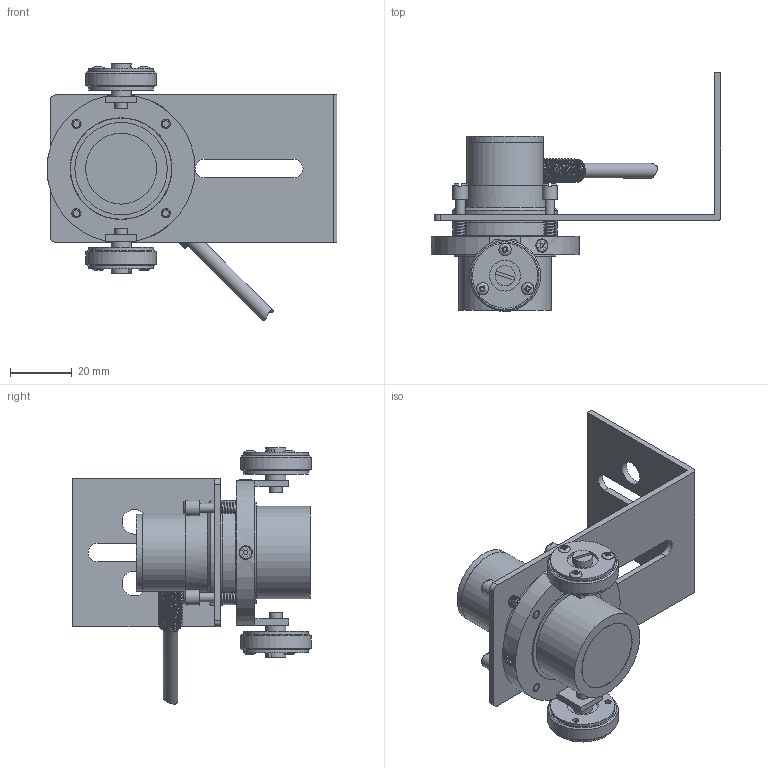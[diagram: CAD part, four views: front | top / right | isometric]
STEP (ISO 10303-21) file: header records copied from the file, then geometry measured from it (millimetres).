
FILE_DESCRIPTION (( 'STEP AP203' ), '1' );
FILE_NAME ('YIST100-2(0).STEP', '2023-04-05T01:26:22', ( '' ), ( '' ), 'SwSTEP 2.0', 'SolidWorks 2021', '' );
FILE_SCHEMA (( 'CONFIG_CONTROL_DESIGN' ));
Products named in the file (1): YIST100-2(0)
Bounding box: 94 x 77.4 x 83.15 mm (x, y, z)
Volume: 61272.3 mm3; surface area: 31405 mm2
Topology: 1 solids, 15 shells, 678 faces, 1744 edges, 1159 vertices
Faces by surface type: plane 389, cylinder 204, cone 53, bspline 19, torus 13
Full cylindrical faces by diameter (mm): 2 x25, 2.1 x6, 2.4 x9, 3 x8, 3.5 x4, 4 x13, 4.1 x2, 4.8 x1, 5 x5, 6 x1, 6.5 x4, 8 x2, 8.4 x1, 10 x4, 13 x4, 21 x4, 23 x3, 24.9 x1, 25 x2, 27 x2, 28.6 x1, 30 x1, 31.4 x1, 32.8 x1, 33 x1, 33.9 x1, 34 x1, 36 x1
Entity records: 54337 total; most frequent: CARTESIAN_POINT 38973, DIRECTION 3115, ORIENTED_EDGE 2936, EDGE_CURVE 1468, AXIS2_PLACEMENT_3D 1153, VERTEX_POINT 1050, EDGE_LOOP 964, VECTOR 809
